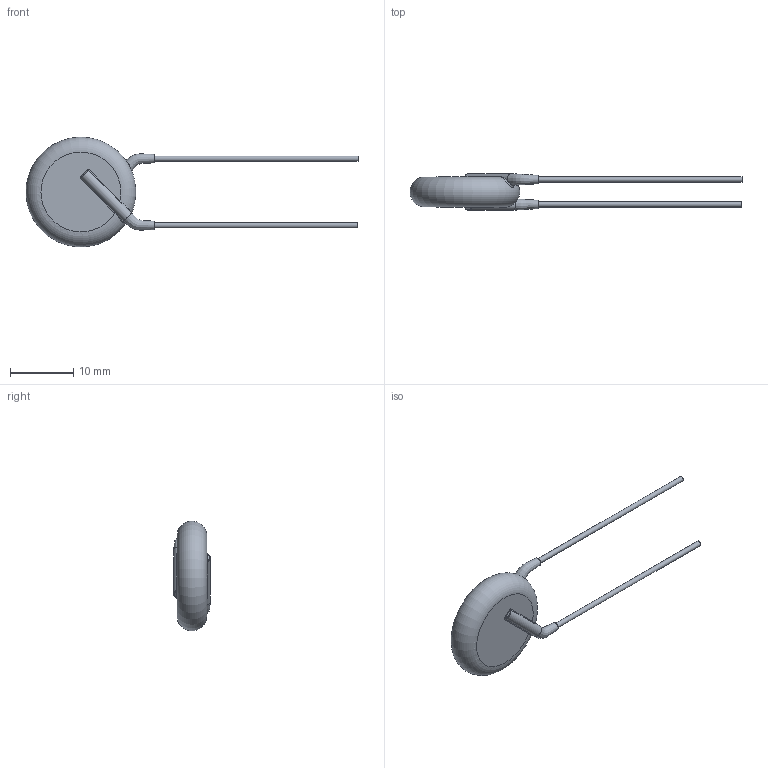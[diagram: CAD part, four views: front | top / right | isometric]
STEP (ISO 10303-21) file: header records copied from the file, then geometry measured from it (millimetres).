
FILE_DESCRIPTION(/* description */ (''),/* implementation_level */ '2;1');
FILE_NAME(/* name */ 'I:\Marketing\M6t1\3D-Models\Zchng-Werk-3\Upload for homepage\Ceramite\Y5U\440LD56-R\440LD56-R.stp',/* time_stamp */ '2016-11-10T14:53:36+01:00',/* author */ ('sheinrich'),/* organization */ (''),/* preprocessor_version */ 'ST-DEVELOPER v16.1',/* originating_system */ 'Autodesk Inventor 2016',/* authorisation */ '');
FILE_SCHEMA (('AUTOMOTIVE_DESIGN { 1 0 10303 214 3 1 1 }'));
Length unit declared in the file: millimetre
Products named in the file (1): 440LD56-R
Bounding box: 52.29 x 5.8 x 17.29 mm (x, y, z)
Volume: 1054 mm3; surface area: 836.2 mm2
Topology: 1 solids, 1 shells, 39 faces, 84 edges, 45 vertices
Faces by surface type: bspline 12, cylinder 12, plane 8, torus 7
Full cylindrical faces by diameter (mm): 0.81 x2
Entity records: 1845 total; most frequent: CARTESIAN_POINT 1028, ORIENTED_EDGE 152, DIRECTION 144, EDGE_CURVE 76, AXIS2_PLACEMENT_3D 66, EDGE_LOOP 44, VERTEX_POINT 44, STYLED_ITEM 40
